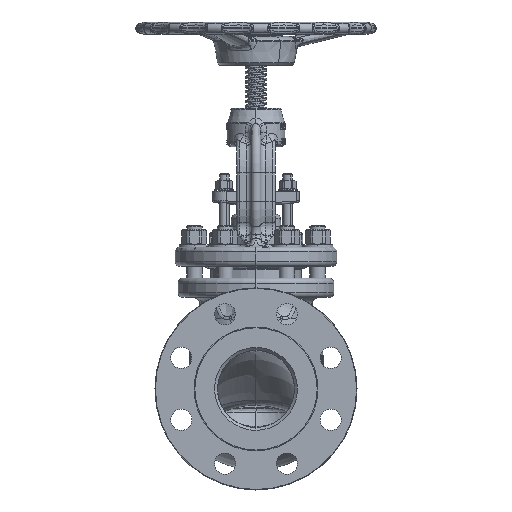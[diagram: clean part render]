
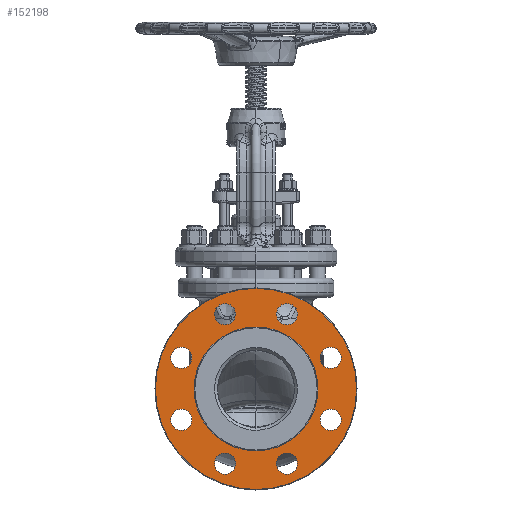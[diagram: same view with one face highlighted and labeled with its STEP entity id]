
A CAD part, left-side view. The second image highlights one B-rep face of the part: STEP entity #152198.
In plain terms, the highlighted planar face has unit normal (-1, 0, 0).
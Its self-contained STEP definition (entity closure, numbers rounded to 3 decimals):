
#27986=CARTESIAN_POINT('',(-157.4,0.,0.));
#27987=DIRECTION('',(-1.,0.,0.));
#27988=DIRECTION('',(0.,0.,1.));
#27989=AXIS2_PLACEMENT_3D('',#27986,#27987,#27988);
#27996=CARTESIAN_POINT('',(-157.4,0.,0.));
#27997=DIRECTION('',(-1.,0.,0.));
#27998=DIRECTION('',(0.,0.,-1.));
#27999=AXIS2_PLACEMENT_3D('',#27996,#27997,#27998);
#28001=CARTESIAN_POINT('',(-157.4,0.,0.));
#28002=DIRECTION('',(-1.,0.,0.));
#28003=DIRECTION('',(0.,0.,1.));
#28004=AXIS2_PLACEMENT_3D('',#28001,#28002,#28003);
#28006=CARTESIAN_POINT('',(-157.4,0.,0.));
#28007=DIRECTION('',(1.,0.,0.));
#28008=DIRECTION('',(0.,0.,1.));
#28009=AXIS2_PLACEMENT_3D('',#28006,#28007,#28008);
#28011=CARTESIAN_POINT('',(-157.4,32.165,77.652));
#28012=DIRECTION('',(-1.,0.,0.));
#28013=DIRECTION('',(0.,-1.,0.));
#28014=AXIS2_PLACEMENT_3D('',#28011,#28012,#28013);
#28016=CARTESIAN_POINT('',(-157.4,32.165,77.652));
#28017=DIRECTION('',(-1.,0.,0.));
#28018=DIRECTION('',(0.,1.,0.));
#28019=AXIS2_PLACEMENT_3D('',#28016,#28017,#28018);
#28021=CARTESIAN_POINT('',(-157.4,77.652,32.165));
#28022=DIRECTION('',(-1.,0.,0.));
#28023=DIRECTION('',(0.,-1.,0.));
#28024=AXIS2_PLACEMENT_3D('',#28021,#28022,#28023);
#28026=CARTESIAN_POINT('',(-157.4,77.652,32.165));
#28027=DIRECTION('',(-1.,0.,0.));
#28028=DIRECTION('',(0.,1.,0.));
#28029=AXIS2_PLACEMENT_3D('',#28026,#28027,#28028);
#28031=CARTESIAN_POINT('',(-157.4,77.652,-32.165));
#28032=DIRECTION('',(-1.,0.,0.));
#28033=DIRECTION('',(0.,-1.,0.));
#28034=AXIS2_PLACEMENT_3D('',#28031,#28032,#28033);
#28036=CARTESIAN_POINT('',(-157.4,77.652,-32.165));
#28037=DIRECTION('',(-1.,0.,0.));
#28038=DIRECTION('',(0.,1.,0.));
#28039=AXIS2_PLACEMENT_3D('',#28036,#28037,#28038);
#28041=CARTESIAN_POINT('',(-157.4,32.165,-77.652));
#28042=DIRECTION('',(-1.,0.,0.));
#28043=DIRECTION('',(0.,-1.,0.));
#28044=AXIS2_PLACEMENT_3D('',#28041,#28042,#28043);
#28046=CARTESIAN_POINT('',(-157.4,32.165,-77.652));
#28047=DIRECTION('',(-1.,0.,0.));
#28048=DIRECTION('',(0.,1.,0.));
#28049=AXIS2_PLACEMENT_3D('',#28046,#28047,#28048);
#28051=CARTESIAN_POINT('',(-157.4,-32.165,-77.652));
#28052=DIRECTION('',(-1.,0.,0.));
#28053=DIRECTION('',(0.,-1.,0.));
#28054=AXIS2_PLACEMENT_3D('',#28051,#28052,#28053);
#28056=CARTESIAN_POINT('',(-157.4,-32.165,-77.652));
#28057=DIRECTION('',(-1.,0.,0.));
#28058=DIRECTION('',(0.,1.,0.));
#28059=AXIS2_PLACEMENT_3D('',#28056,#28057,#28058);
#28061=CARTESIAN_POINT('',(-157.4,-77.652,-32.165));
#28062=DIRECTION('',(-1.,0.,0.));
#28063=DIRECTION('',(0.,-1.,0.));
#28064=AXIS2_PLACEMENT_3D('',#28061,#28062,#28063);
#28066=CARTESIAN_POINT('',(-157.4,-77.652,-32.165));
#28067=DIRECTION('',(-1.,0.,0.));
#28068=DIRECTION('',(0.,1.,0.));
#28069=AXIS2_PLACEMENT_3D('',#28066,#28067,#28068);
#28071=CARTESIAN_POINT('',(-157.4,-77.652,32.165));
#28072=DIRECTION('',(-1.,0.,0.));
#28073=DIRECTION('',(0.,-1.,0.));
#28074=AXIS2_PLACEMENT_3D('',#28071,#28072,#28073);
#28076=CARTESIAN_POINT('',(-157.4,-77.652,32.165));
#28077=DIRECTION('',(-1.,0.,0.));
#28078=DIRECTION('',(0.,1.,0.));
#28079=AXIS2_PLACEMENT_3D('',#28076,#28077,#28078);
#28081=CARTESIAN_POINT('',(-157.4,-32.165,77.652));
#28082=DIRECTION('',(-1.,0.,0.));
#28083=DIRECTION('',(0.,-1.,0.));
#28084=AXIS2_PLACEMENT_3D('',#28081,#28082,#28083);
#28086=CARTESIAN_POINT('',(-157.4,-32.165,77.652));
#28087=DIRECTION('',(-1.,0.,0.));
#28088=DIRECTION('',(0.,1.,0.));
#28089=AXIS2_PLACEMENT_3D('',#28086,#28087,#28088);
#115295=CARTESIAN_POINT('',(-157.4,0.,-104.449));
#115296=VERTEX_POINT('',#115295);
#115297=CARTESIAN_POINT('',(-157.4,0.,104.449));
#115298=VERTEX_POINT('',#115297);
#115323=CARTESIAN_POINT('',(-157.4,21.165,77.652));
#115324=CARTESIAN_POINT('',(-157.4,43.165,77.652));
#115325=VERTEX_POINT('',#115323);
#115326=VERTEX_POINT('',#115324);
#115331=CARTESIAN_POINT('',(-157.4,66.652,32.165));
#115332=CARTESIAN_POINT('',(-157.4,88.652,32.165));
#115333=VERTEX_POINT('',#115331);
#115334=VERTEX_POINT('',#115332);
#115339=CARTESIAN_POINT('',(-157.4,66.652,-32.165));
#115340=CARTESIAN_POINT('',(-157.4,88.652,-32.165));
#115341=VERTEX_POINT('',#115339);
#115342=VERTEX_POINT('',#115340);
#115347=CARTESIAN_POINT('',(-157.4,21.165,-77.652));
#115348=CARTESIAN_POINT('',(-157.4,43.165,-77.652));
#115349=VERTEX_POINT('',#115347);
#115350=VERTEX_POINT('',#115348);
#115355=CARTESIAN_POINT('',(-157.4,-43.165,-77.652));
#115356=CARTESIAN_POINT('',(-157.4,-21.165,-77.652));
#115357=VERTEX_POINT('',#115355);
#115358=VERTEX_POINT('',#115356);
#115363=CARTESIAN_POINT('',(-157.4,-88.652,-32.165));
#115364=CARTESIAN_POINT('',(-157.4,-66.652,-32.165));
#115365=VERTEX_POINT('',#115363);
#115366=VERTEX_POINT('',#115364);
#115371=CARTESIAN_POINT('',(-157.4,-88.652,32.165));
#115372=CARTESIAN_POINT('',(-157.4,-66.652,32.165));
#115373=VERTEX_POINT('',#115371);
#115374=VERTEX_POINT('',#115372);
#115379=CARTESIAN_POINT('',(-157.4,-43.165,77.652));
#115380=CARTESIAN_POINT('',(-157.4,-21.165,77.652));
#115381=VERTEX_POINT('',#115379);
#115382=VERTEX_POINT('',#115380);
#115728=CARTESIAN_POINT('',(-157.4,0.,64.3));
#115729=VERTEX_POINT('',#115728);
#115732=CARTESIAN_POINT('',(-157.4,0.,-64.3));
#115733=VERTEX_POINT('',#115732);
#152135=CARTESIAN_POINT('',(-157.4,0.,0.));
#152136=DIRECTION('',(-1.,0.,0.));
#152137=DIRECTION('',(0.,0.,1.));
#152138=AXIS2_PLACEMENT_3D('',#152135,#152136,#152137);
#152139=PLANE('',#152138);
#152140=ORIENTED_EDGE('',*,*,#152116,.F.);
#152141=ORIENTED_EDGE('',*,*,#152127,.F.);
#152142=EDGE_LOOP('',(#152140,#152141));
#152143=FACE_OUTER_BOUND('',#152142,.F.);
#152145=ORIENTED_EDGE('',*,*,#152144,.T.);
#152147=ORIENTED_EDGE('',*,*,#152146,.F.);
#152148=EDGE_LOOP('',(#152145,#152147));
#152149=FACE_BOUND('',#152148,.F.);
#152151=ORIENTED_EDGE('',*,*,#152150,.T.);
#152153=ORIENTED_EDGE('',*,*,#152152,.T.);
#152154=EDGE_LOOP('',(#152151,#152153));
#152155=FACE_BOUND('',#152154,.F.);
#152157=ORIENTED_EDGE('',*,*,#152156,.T.);
#152159=ORIENTED_EDGE('',*,*,#152158,.T.);
#152160=EDGE_LOOP('',(#152157,#152159));
#152161=FACE_BOUND('',#152160,.F.);
#152163=ORIENTED_EDGE('',*,*,#152162,.T.);
#152165=ORIENTED_EDGE('',*,*,#152164,.T.);
#152166=EDGE_LOOP('',(#152163,#152165));
#152167=FACE_BOUND('',#152166,.F.);
#152169=ORIENTED_EDGE('',*,*,#152168,.T.);
#152171=ORIENTED_EDGE('',*,*,#152170,.T.);
#152172=EDGE_LOOP('',(#152169,#152171));
#152173=FACE_BOUND('',#152172,.F.);
#152175=ORIENTED_EDGE('',*,*,#152174,.T.);
#152177=ORIENTED_EDGE('',*,*,#152176,.T.);
#152178=EDGE_LOOP('',(#152175,#152177));
#152179=FACE_BOUND('',#152178,.F.);
#152181=ORIENTED_EDGE('',*,*,#152180,.T.);
#152183=ORIENTED_EDGE('',*,*,#152182,.T.);
#152184=EDGE_LOOP('',(#152181,#152183));
#152185=FACE_BOUND('',#152184,.F.);
#152187=ORIENTED_EDGE('',*,*,#152186,.T.);
#152189=ORIENTED_EDGE('',*,*,#152188,.T.);
#152190=EDGE_LOOP('',(#152187,#152189));
#152191=FACE_BOUND('',#152190,.F.);
#152193=ORIENTED_EDGE('',*,*,#152192,.T.);
#152195=ORIENTED_EDGE('',*,*,#152194,.T.);
#152196=EDGE_LOOP('',(#152193,#152195));
#152197=FACE_BOUND('',#152196,.F.);
#27990=CIRCLE('',#27989,104.449);
#28000=CIRCLE('',#27999,104.449);
#28005=CIRCLE('',#28004,64.3);
#28010=CIRCLE('',#28009,64.3);
#28015=CIRCLE('',#28014,11.);
#28020=CIRCLE('',#28019,11.);
#28025=CIRCLE('',#28024,11.);
#28030=CIRCLE('',#28029,11.);
#28035=CIRCLE('',#28034,11.);
#28040=CIRCLE('',#28039,11.);
#28045=CIRCLE('',#28044,11.);
#28050=CIRCLE('',#28049,11.);
#28055=CIRCLE('',#28054,11.);
#28060=CIRCLE('',#28059,11.);
#28065=CIRCLE('',#28064,11.);
#28070=CIRCLE('',#28069,11.);
#28075=CIRCLE('',#28074,11.);
#28080=CIRCLE('',#28079,11.);
#28085=CIRCLE('',#28084,11.);
#28090=CIRCLE('',#28089,11.);
#152116=EDGE_CURVE('',#115298,#115296,#27990,.T.);
#152127=EDGE_CURVE('',#115296,#115298,#28000,.T.);
#152144=EDGE_CURVE('',#115729,#115733,#28005,.T.);
#152146=EDGE_CURVE('',#115729,#115733,#28010,.T.);
#152150=EDGE_CURVE('',#115325,#115326,#28015,.T.);
#152152=EDGE_CURVE('',#115326,#115325,#28020,.T.);
#152156=EDGE_CURVE('',#115333,#115334,#28025,.T.);
#152158=EDGE_CURVE('',#115334,#115333,#28030,.T.);
#152162=EDGE_CURVE('',#115341,#115342,#28035,.T.);
#152164=EDGE_CURVE('',#115342,#115341,#28040,.T.);
#152168=EDGE_CURVE('',#115349,#115350,#28045,.T.);
#152170=EDGE_CURVE('',#115350,#115349,#28050,.T.);
#152174=EDGE_CURVE('',#115357,#115358,#28055,.T.);
#152176=EDGE_CURVE('',#115358,#115357,#28060,.T.);
#152180=EDGE_CURVE('',#115365,#115366,#28065,.T.);
#152182=EDGE_CURVE('',#115366,#115365,#28070,.T.);
#152186=EDGE_CURVE('',#115373,#115374,#28075,.T.);
#152188=EDGE_CURVE('',#115374,#115373,#28080,.T.);
#152192=EDGE_CURVE('',#115381,#115382,#28085,.T.);
#152194=EDGE_CURVE('',#115382,#115381,#28090,.T.);
#152198=ADVANCED_FACE('',(#152143,#152149,#152155,#152161,#152167,#152173,
#152179,#152185,#152191,#152197),#152139,.T.);
